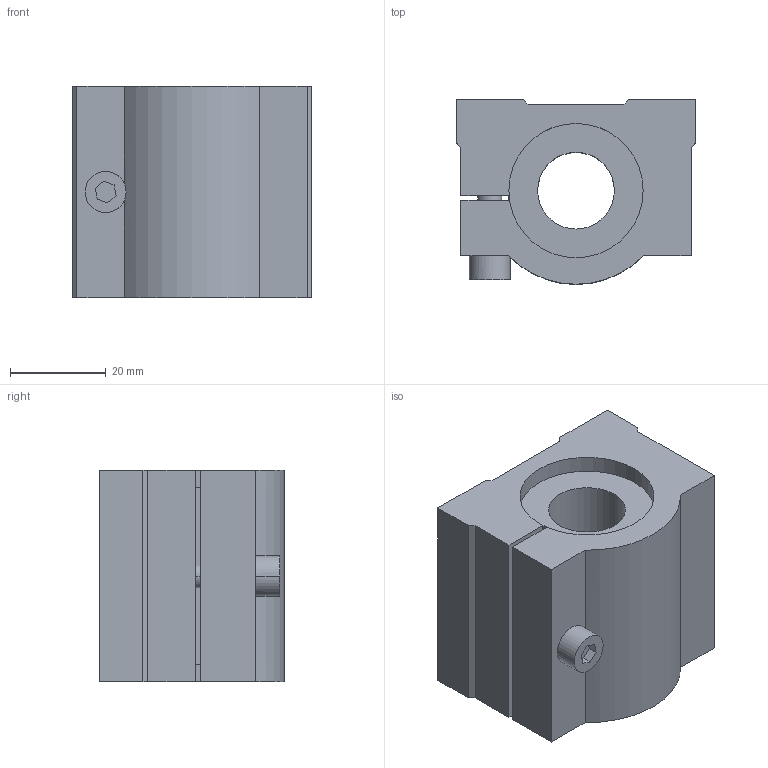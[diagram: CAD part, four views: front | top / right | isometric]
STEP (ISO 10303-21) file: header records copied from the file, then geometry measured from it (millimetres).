
FILE_DESCRIPTION((''),'2;1');
FILE_NAME('C:\Documents and Settings\ｿﾀﾀ蠑ｷ1\ｹﾙﾅﾁ ﾈｭｸ饅\ｺﾎﾇｰﾆﾄﾀﾏ\ﾁｦﾇｰ\SCJ__UU\SCJ16UU.stp','2005-06-22T17:44:09',('ｿﾀﾀ蠑ｷ1'),(''),'Autodesk Inventor 9','Autodesk Inventor 9','');
FILE_SCHEMA(('AUTOMOTIVE_DESIGN { 1 0 10303 214 1 1 1 1 }'));
Length unit declared in the file: millimetre
Products named in the file (1): SCJ__UU
Bounding box: 50 x 38.5 x 44 mm (x, y, z)
Volume: 61100.4 mm3; surface area: 14441.4 mm2
Topology: 1 solids, 1 shells, 56 faces, 145 edges, 90 vertices
Faces by surface type: plane 29, bspline 16, cylinder 11
Entity records: 1892 total; most frequent: CARTESIAN_POINT 566, ORIENTED_EDGE 274, DIRECTION 255, EDGE_CURVE 137, VECTOR 97, LINE 97, VERTEX_POINT 90, AXIS2_PLACEMENT_3D 79
